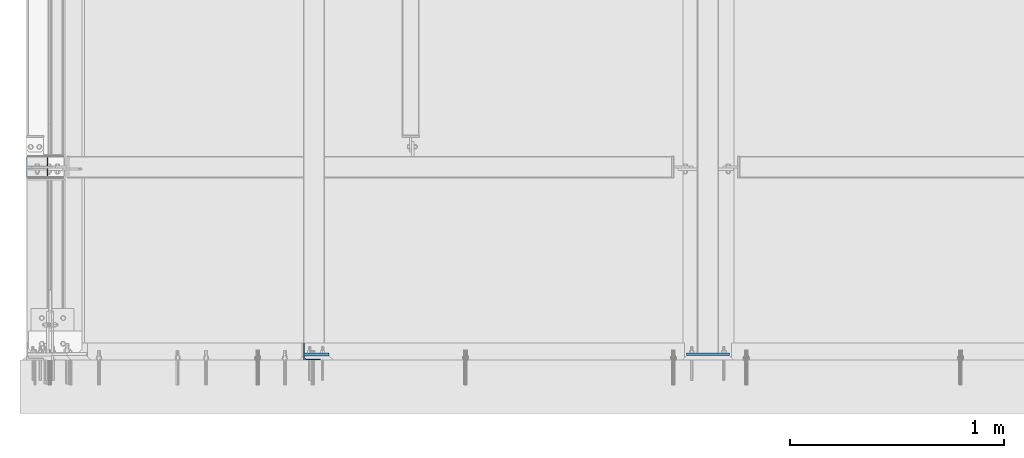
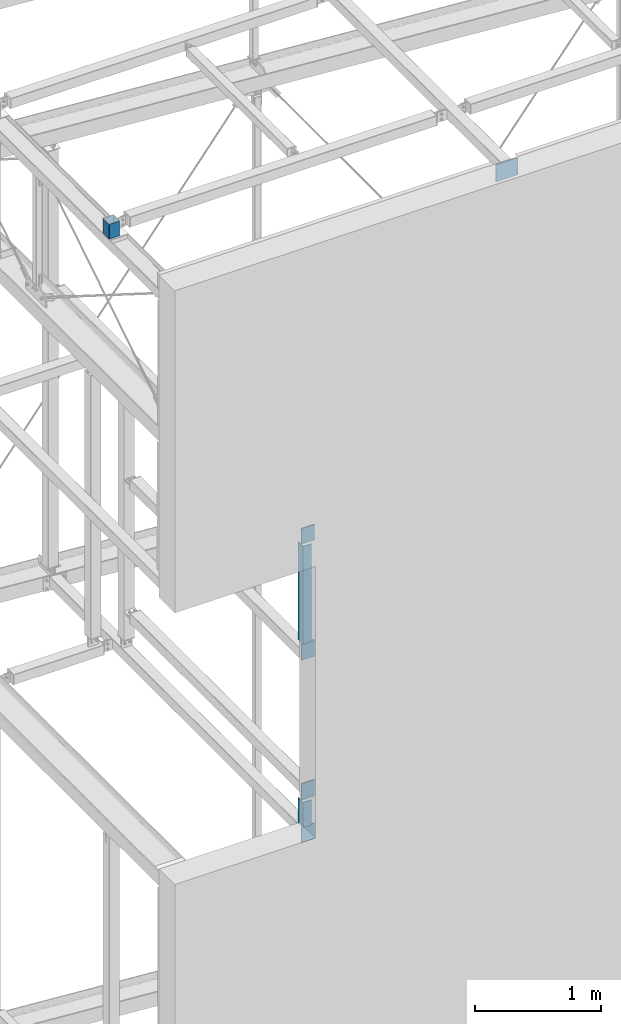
# One storey, part 62 of 271: 8 beams, 8 elements without a shape of their own.
"""IFC2X3 building model written with IfcOpenShell, lengths in millimetres."""

from ifc_helpers import new_model, si_unit, frame, origin_with_axes, origin_2d_with_axis, place, context, subcontext, project, spatial, rectangle, hollow_rectangle, l_section, extrude, clip, halfspace, material, type_object, element, aggregate, save


model = new_model("IFC2X3")

# Units and contexts
model_context = context("Model", 3, precision=1e-05, world=origin_with_axes())
body_context = subcontext(model_context, "Body", "Model", "MODEL_VIEW")
ifc_project = project(units=[si_unit("LENGTHUNIT", "METRE", prefix="MILLI"), si_unit("AREAUNIT", "SQUARE_METRE"), si_unit("VOLUMEUNIT", "CUBIC_METRE"), si_unit("MASSUNIT", "GRAM", prefix="KILO"), si_unit("TIMEUNIT", "SECOND"), si_unit("PLANEANGLEUNIT", "RADIAN"), si_unit("SOLIDANGLEUNIT", "STERADIAN"), si_unit("THERMODYNAMICTEMPERATUREUNIT", "DEGREE_CELSIUS"), si_unit("LUMINOUSINTENSITYUNIT", "LUMEN")], contexts=[model_context])

# Site, building, storey
site_placement = place(None, origin_with_axes())
site = spatial("IfcSite", under=ifc_project, at=site_placement, Name="Undefined", CompositionType="ELEMENT")
building_placement = place(site_placement, origin_with_axes())
building = spatial("IfcBuilding", under=site, at=building_placement, Name="Undefined", CompositionType="ELEMENT")
storey_placement = place(building_placement, origin_with_axes())
storey = spatial("IfcBuildingStorey", under=building, at=storey_placement, Name="Undefined", CompositionType="ELEMENT", Elevation=0.0)

# Assembly, beam
assembly_1_placement = place(storey_placement, origin_with_axes())
assembly_1 = element("IfcElementAssembly", 1, at=assembly_1_placement, inside=storey, AssemblyPlace="NOTDEFINED", PredefinedType="RIGID_FRAME")
ifc_material = material(Name="STEEL/S355JR")
beam_type_1 = type_object("IfcBeamType", Name="SHS100*3", PredefinedType="NOTDEFINED")
beam_1_placement = place(assembly_1_placement, frame((38.3756870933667, 899.324984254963, 20204.3499999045), z_axis=(0.0, 1.0, 0.0), x_axis=(0.0, 0.0, -1.0)))
beam_1 = element("IfcBeam", 2, at=beam_1_placement, type_object=beam_type_1, material=ifc_material, Name="TĘŻNIK", ObjectType="SHS100*3", context=body_context, shape_type="Clipping", body=[
    clip(extrude(hollow_rectangle(XDim=100.0, YDim=100.0, WallThickness=3.0, InnerFilletRadius=3.0, OuterFilletRadius=6.0, at=origin_2d_with_axis()), frame((146.5, 0.0, 0.0), z_axis=(-1.0, 0.0, 1.38777878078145e-17), x_axis=(0.0, -1.0, 0.0)), (0.0, 0.0, 1.0), 146.5), halfspace(frame((4.0, 0.0, -50.0), z_axis=(1.0, 0.0, 0.0), x_axis=(0.0, -1.0, 0.0)), True)),
])
aggregate(assembly_1, [beam_1])

assembly_2_placement = place(storey_placement, origin_with_axes())
assembly_2 = element("IfcElementAssembly", 3, at=assembly_2_placement, inside=storey, AssemblyPlace="NOTDEFINED", PredefinedType="RIGID_FRAME")
beam_type_2 = type_object("IfcBeamType", Name="BL12*120", PredefinedType="NOTDEFINED")
beam_2_placement = place(assembly_2_placement, frame((1340.37568709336, 25.0521198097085, 14391.8499999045), z_axis=(-1.0, 0.0, 1.38777878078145e-17), x_axis=(0.0, 0.0, -1.0)))
beam_2 = element("IfcBeam", 4, at=beam_2_placement, type_object=beam_type_2, material=ifc_material, Name="BLACHA_PODSTAWY", ObjectType="BL12*120", context=body_context, shape_type="SweptSolid", body=[
    extrude(rectangle(XDim=12.0, YDim=120.0, at=origin_2d_with_axis()), frame((150.0, 0.0, 0.0), z_axis=(-1.0, 0.0, 1.38777878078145e-17), x_axis=(0.0, -1.0, 0.0)), (0.0, 0.0, 1.0), 150.0),
])
aggregate(assembly_2, [beam_2])

assembly_3_placement = place(storey_placement, origin_with_axes())
assembly_3 = element("IfcElementAssembly", 5, at=assembly_3_placement, inside=storey, AssemblyPlace="NOTDEFINED", PredefinedType="RIGID_FRAME")
beam_3_placement = place(assembly_3_placement, frame((1340.37568709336, 25.0521198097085, 14814.3499999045), z_axis=(-1.0, 0.0, 1.38777878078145e-17), x_axis=(0.0, 0.0, -1.0)))
beam_3 = element("IfcBeam", 6, at=beam_3_placement, type_object=beam_type_2, material=ifc_material, Name="BLACHA_PODSTAWY", ObjectType="BL12*120", context=body_context, shape_type="SweptSolid", body=[
    extrude(rectangle(XDim=12.0, YDim=120.0, at=origin_2d_with_axis()), frame((160.0, 0.0, 0.0), z_axis=(-1.0, 0.0, 1.38777878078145e-17), x_axis=(0.0, -1.0, 0.0)), (0.0, 0.0, 1.0), 160.0),
])
aggregate(assembly_3, [beam_3])

assembly_4_placement = place(storey_placement, origin_with_axes())
assembly_4 = element("IfcElementAssembly", 7, at=assembly_4_placement, inside=storey, AssemblyPlace="NOTDEFINED", PredefinedType="RIGID_FRAME")
beam_4_placement = place(assembly_4_placement, frame((1340.37568709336, 25.0521198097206, 16014.3499999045), z_axis=(1.0, 0.0, 0.0), x_axis=(0.0, 0.0, 1.0)))
beam_4 = element("IfcBeam", 8, at=beam_4_placement, type_object=beam_type_2, material=ifc_material, Name="BLACHA_PODSTAWY", ObjectType="BL12*120", context=body_context, shape_type="SweptSolid", body=[
    extrude(rectangle(XDim=12.0, YDim=120.0, at=origin_2d_with_axis()), frame((160.0, 0.0, 0.0), z_axis=(-1.0, 0.0, 1.38777878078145e-17), x_axis=(0.0, -1.0, 0.0)), (0.0, 0.0, 1.0), 160.0),
])
aggregate(assembly_4, [beam_4])

assembly_5_placement = place(storey_placement, origin_with_axes())
assembly_5 = element("IfcElementAssembly", 9, at=assembly_5_placement, inside=storey, AssemblyPlace="NOTDEFINED", PredefinedType="RIGID_FRAME")
beam_5_placement = place(assembly_5_placement, frame((1340.37568709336, 25.0521198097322, 17144.3499999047), z_axis=(1.0, 0.0, 0.0), x_axis=(0.0, 0.0, 1.0)))
beam_5 = element("IfcBeam", 10, at=beam_5_placement, type_object=beam_type_2, material=ifc_material, Name="BLACHA_PODSTAWY", ObjectType="BL12*120", context=body_context, shape_type="SweptSolid", body=[
    extrude(rectangle(XDim=12.0, YDim=120.0, at=origin_2d_with_axis()), frame((150.0, 0.0, 0.0), z_axis=(-1.0, 0.0, 1.38777878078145e-17), x_axis=(0.0, -1.0, 0.0)), (0.0, 0.0, 1.0), 150.0),
])
aggregate(assembly_5, [beam_5])

assembly_6_placement = place(storey_placement, origin_with_axes())
assembly_6 = element("IfcElementAssembly", 11, at=assembly_6_placement, inside=storey, AssemblyPlace="NOTDEFINED", PredefinedType="RIGID_FRAME")
beam_type_3 = type_object("IfcBeamType", Name="L80*80*6", PredefinedType="NOTDEFINED")
beam_6_placement = place(assembly_6_placement, frame((1320.37568709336, 39.0521198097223, 16184.3499999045), z_axis=(1.0, 0.0, 0.0), x_axis=(0.0, 0.0, 1.0)))
beam_6 = element("IfcBeam", 12, at=beam_6_placement, type_object=beam_type_3, material=ifc_material, Name="KĄTOWNIK", ObjectType="L80*80*6", context=body_context, shape_type="SweptSolid", body=[
    extrude(l_section(Depth=80.0, Width=80.0, Thickness=6.0, FilletRadius=9.0, at=origin_2d_with_axis()), frame((950.0, 0.0, 0.0), z_axis=(-1.0, 0.0, 1.38777878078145e-17), x_axis=(0.0, -1.0, 0.0)), (0.0, 0.0, 1.0), 950.0),
])
aggregate(assembly_6, [beam_6])

assembly_7_placement = place(storey_placement, origin_with_axes())
assembly_7 = element("IfcElementAssembly", 13, at=assembly_7_placement, inside=storey, AssemblyPlace="NOTDEFINED", PredefinedType="RIGID_FRAME")
beam_7_placement = place(assembly_7_placement, frame((1320.37568709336, 39.0521198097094, 14401.5999999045), z_axis=(1.0, 0.0, 0.0), x_axis=(0.0, 0.0, 1.0)))
beam_7 = element("IfcBeam", 14, at=beam_7_placement, type_object=beam_type_3, material=ifc_material, Name="KĄTOWNIK", ObjectType="L80*80*6", context=body_context, shape_type="SweptSolid", body=[
    extrude(l_section(Depth=80.0, Width=80.0, Thickness=6.0, FilletRadius=9.0, at=origin_2d_with_axis()), frame((243.0, 0.0, 0.0), z_axis=(-1.0, 0.0, 1.38777878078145e-17), x_axis=(0.0, -1.0, 0.0)), (0.0, 0.0, 1.0), 243.0),
])
aggregate(assembly_7, [beam_7])

assembly_8_placement = place(storey_placement, origin_with_axes())
assembly_8 = element("IfcElementAssembly", 15, at=assembly_8_placement, inside=storey, AssemblyPlace="NOTDEFINED", PredefinedType="RIGID_FRAME")
beam_type_4 = type_object("IfcBeamType", Name="BL12*165", PredefinedType="NOTDEFINED")
beam_8_placement = place(assembly_8_placement, frame((3268.37568709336, 25.3249842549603, 20121.8499999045), z_axis=(0.0, 0.0, 1.0), x_axis=(-1.0, 0.0, 1.38777878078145e-17)))
beam_8 = element("IfcBeam", 16, at=beam_8_placement, type_object=beam_type_4, material=ifc_material, Name="BLACHA_PODSTAWY", ObjectType="BL12*165", context=body_context, shape_type="SweptSolid", body=[
    extrude(rectangle(XDim=12.0, YDim=165.0, at=origin_2d_with_axis()), frame((200.0, 0.0, 0.0), z_axis=(-1.0, 0.0, 1.38777878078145e-17), x_axis=(0.0, -1.0, 0.0)), (0.0, 0.0, 1.0), 200.0),
])
aggregate(assembly_8, [beam_8])

save(model, "model.ifc")
